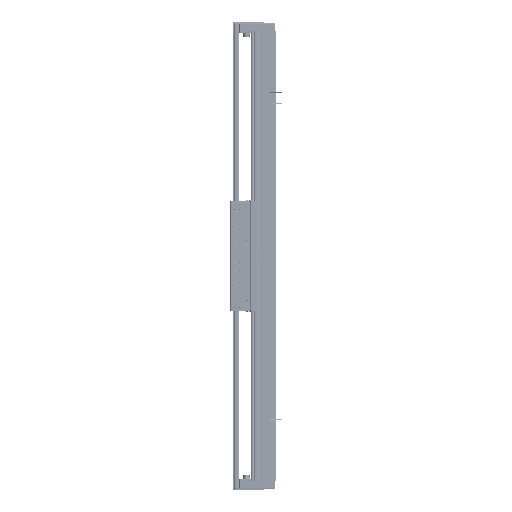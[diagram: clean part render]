
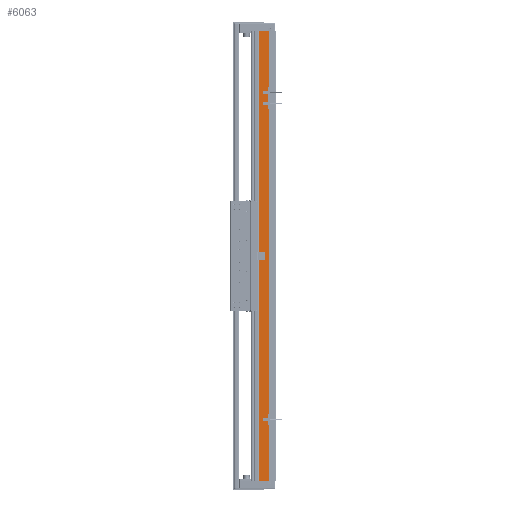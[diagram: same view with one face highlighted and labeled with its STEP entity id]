
A CAD part, left-side view. The second image highlights one B-rep face of the part: STEP entity #6063.
In plain terms, the highlighted planar face has unit normal (-1, 0, 0).
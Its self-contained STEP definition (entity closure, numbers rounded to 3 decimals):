
#1032 = CARTESIAN_POINT ( 'NONE',  ( -97.5, 14.45, 510. ) ) ;
#3414 = AXIS2_PLACEMENT_3D ( 'NONE', #86793, #28616, #97584 ) ;
#6063 = ADVANCED_FACE ( 'NONE', ( #119127 ), #50894, .F. ) ;
#6508 = CARTESIAN_POINT ( 'NONE',  ( -97.5, 14.45, 510. ) ) ;
#8140 = ORIENTED_EDGE ( 'NONE', *, *, #71830, .F. ) ;
#14217 = LINE ( 'NONE', #135651, #117801 ) ;
#16456 = VERTEX_POINT ( 'NONE', #23948 ) ;
#17787 = CARTESIAN_POINT ( 'NONE',  ( -97.5, 36.95, 510. ) ) ;
#23948 = CARTESIAN_POINT ( 'NONE',  ( -97.5, 36.95, -510. ) ) ;
#25698 = ORIENTED_EDGE ( 'NONE', *, *, #39479, .T. ) ;
#25799 = ORIENTED_EDGE ( 'NONE', *, *, #83174, .F. ) ;
#27042 = VECTOR ( 'NONE', #116507, 1000. ) ;
#28616 = DIRECTION ( 'NONE',  ( 1., 0., 0. ) ) ;
#37195 = DIRECTION ( 'NONE',  ( 0., -1., 0. ) ) ;
#39479 = EDGE_CURVE ( 'NONE', #114941, #16456, #116283, .T. ) ;
#46833 = EDGE_CURVE ( 'NONE', #16456, #86195, #136803, .T. ) ;
#48239 = EDGE_LOOP ( 'NONE', ( #106596, #25799, #8140, #25698 ) ) ;
#50894 = PLANE ( 'NONE',  #3414 ) ;
#71830 = EDGE_CURVE ( 'NONE', #114941, #120886, #14217, .T. ) ;
#81803 = DIRECTION ( 'NONE',  ( 0., 0., -1. ) ) ;
#82746 = LINE ( 'NONE', #6508, #27042 ) ;
#83174 = EDGE_CURVE ( 'NONE', #120886, #86195, #82746, .T. ) ;
#86195 = VERTEX_POINT ( 'NONE', #120127 ) ;
#86793 = CARTESIAN_POINT ( 'NONE',  ( -97.5, 36.95, 510. ) ) ;
#97584 = DIRECTION ( 'NONE',  ( 0., 1., 0. ) ) ;
#106596 = ORIENTED_EDGE ( 'NONE', *, *, #46833, .T. ) ;
#114941 = VERTEX_POINT ( 'NONE', #129052 ) ;
#116283 = LINE ( 'NONE', #17787, #140494 ) ;
#116507 = DIRECTION ( 'NONE',  ( 0., 0., -1. ) ) ;
#117801 = VECTOR ( 'NONE', #37195, 1000. ) ;
#119127 = FACE_OUTER_BOUND ( 'NONE', #48239, .T. ) ;
#120127 = CARTESIAN_POINT ( 'NONE',  ( -97.5, 14.45, -510. ) ) ;
#120886 = VERTEX_POINT ( 'NONE', #1032 ) ;
#123224 = CARTESIAN_POINT ( 'NONE',  ( -97.5, 36.95, -510. ) ) ;
#125334 = DIRECTION ( 'NONE',  ( 0., -1., 0. ) ) ;
#129052 = CARTESIAN_POINT ( 'NONE',  ( -97.5, 36.95, 510. ) ) ;
#131723 = VECTOR ( 'NONE', #125334, 1000. ) ;
#135651 = CARTESIAN_POINT ( 'NONE',  ( -97.5, 36.95, 510. ) ) ;
#136803 = LINE ( 'NONE', #123224, #131723 ) ;
#140494 = VECTOR ( 'NONE', #81803, 1000. ) ;
